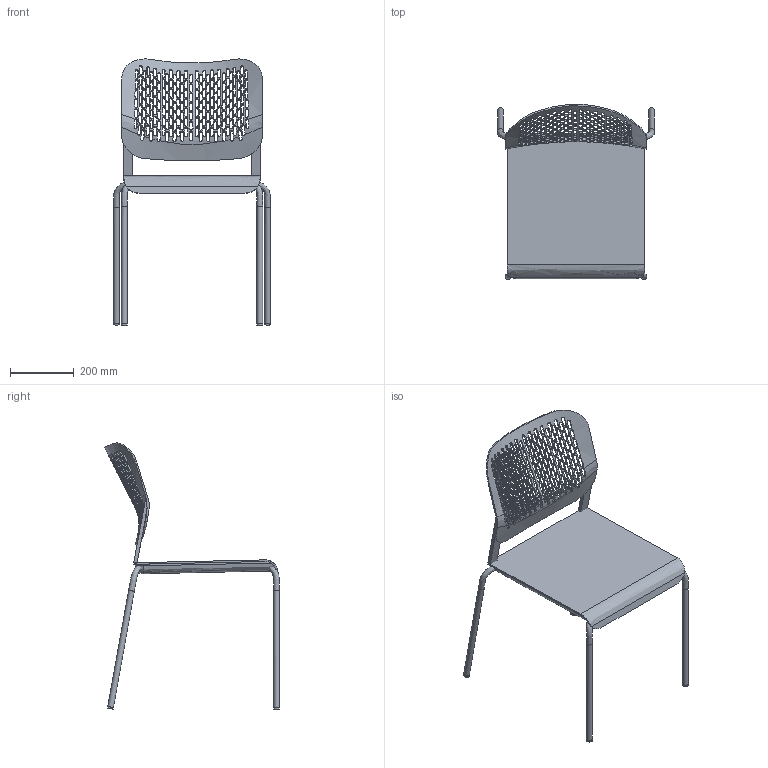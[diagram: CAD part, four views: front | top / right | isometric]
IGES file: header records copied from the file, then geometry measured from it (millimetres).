
Global section: file name: No Iges File Name specified; native system: AutoDesk Inventor R10; preprocessor: AutoDesk Inventor Iges Exporter R10; author: No Author specified; organization: No Organization specified; date: 20111209.204524; units: millimetre
Bounding box: 490.92 x 547 x 832.36 mm (x, y, z)
Volume: 7323787.5 mm3; surface area: 1221902.8 mm2
Topology: 11 solids, 11 shells, 985 faces, 3037 edges, 2011 vertices
Faces by surface type: bspline 985
